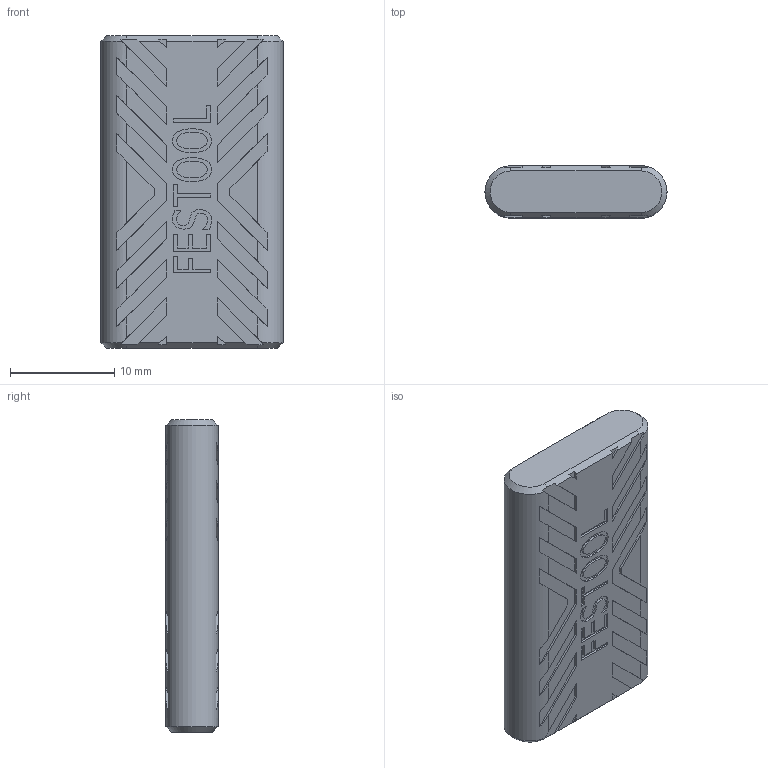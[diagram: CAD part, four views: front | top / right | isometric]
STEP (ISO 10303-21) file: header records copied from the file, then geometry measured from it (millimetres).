
FILE_DESCRIPTION(('Creo Elements/Direct Modeling STEP Export'),'2;1');
FILE_NAME('Domino_5x30.stp','2024-01-19T 8:04:53',(''),(''),'Creo Elements/Direct Modeling STEP processor for AP214 (Solid Model)','Creo Elements/Direct Modeling 20.5A 14-Oct-2022 (C) Parametric Technology GmbH','');
FILE_SCHEMA(('AUTOMOTIVE_DESIGN { 1 0 10303 214 1 1 1 1 }'));
Length unit declared in the file: millimetre
Products named in the file (2): 5x30_00466504
Assembly tree (1 placements, depth 2):
  5x30_00466504
    5x30_00466504
Bounding box: 17.5 x 5 x 30 mm (x, y, z)
Volume: 2399.1 mm3; surface area: 1498.1 mm2
Topology: 1 solids, 1 shells, 725 faces, 2100 edges, 1400 vertices
Faces by surface type: plane 719, cone 4, cylinder 2
Entity records: 23205 total; most frequent: CARTESIAN_POINT 4321, ORIENTED_EDGE 4200, DIRECTION 3462, EDGE_CURVE 2100, VECTOR 1964, LINE 1964, VERTEX_POINT 1400, AXIS2_PLACEMENT_3D 749
